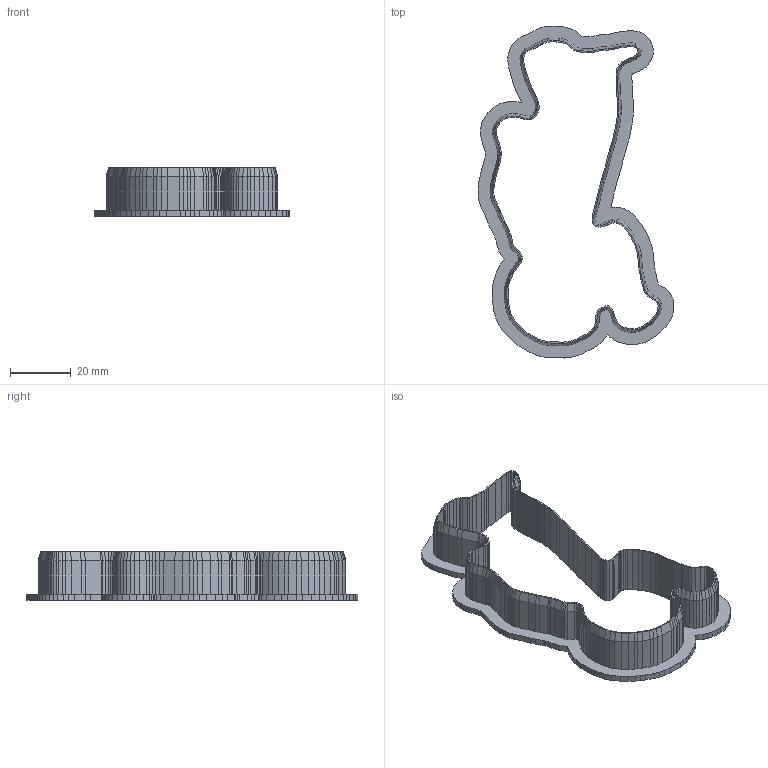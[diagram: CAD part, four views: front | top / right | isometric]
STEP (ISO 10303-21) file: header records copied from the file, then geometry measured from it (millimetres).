
FILE_DESCRIPTION(('Open CASCADE Model'),'2;1');
FILE_NAME('Open CASCADE Shape Model','2026-10-27T22:09:20',('Author'),( 'Open CASCADE'),'Open CASCADE STEP processor 7.9','Open CASCADE 7.9' ,'Unknown');
FILE_SCHEMA(('AUTOMOTIVE_DESIGN { 1 0 10303 214 1 1 1 1 }'));
Products named in the file (1): Open CASCADE STEP translator 7.9 5
Bounding box: 64.51 x 109.27 x 16 mm (x, y, z)
Volume: 8241.3 mm3; surface area: 13181.9 mm2
Topology: 1 solids, 1 shells, 815 faces, 2221 edges, 1409 vertices
Faces by surface type: plane 600, bspline 215
Entity records: 52354 total; most frequent: CARTESIAN_POINT 10961, DIRECTION 6437, LINE 5235, VECTOR 5235, ORIENTED_EDGE 4442, PCURVE 4442, DEFINITIONAL_REPRESENTATION 4442, EDGE_CURVE 2221
